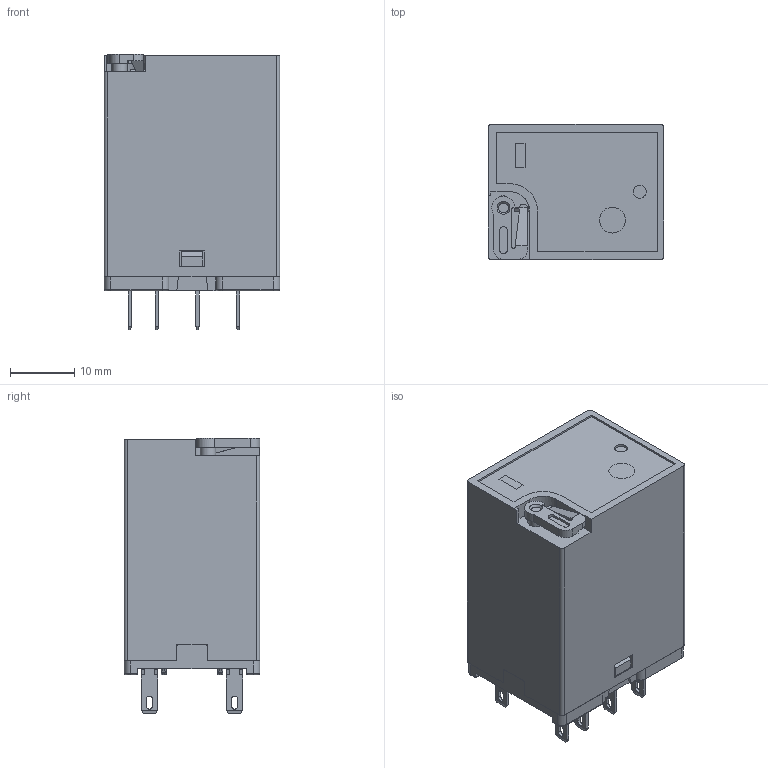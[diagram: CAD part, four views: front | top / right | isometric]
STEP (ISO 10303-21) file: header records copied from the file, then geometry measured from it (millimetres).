
FILE_DESCRIPTION(/* description */ (''),/* implementation_level */ '2;1');
FILE_NAME(/* name */ '18FH-2Z1.stp',/* time_stamp */ '2018-12-27T14:55:31+08:00',/* author */ (''),/* organization */ (''),/* preprocessor_version */ 'ST-DEVELOPER v15',/* originating_system */ 'SIEMENS PLM Software NX 8.5',/* authorisation */ '');
FILE_SCHEMA (('CONFIG_CONTROL_DESIGN'));
Length unit declared in the file: millimetre
Products named in the file (13): 77190533900_a; 66210828900_a; 77500391900_a; 80710158000_d; 83370005000_a; 86340695000_b; 89140050020_a; 61160153000_a; 66210877000_a; 66201145900_a; 61210583000_b; 56701789000_a; 45201755000_a
Assembly tree (18 placements, depth 5):
  45201755000_a
    56701789000_a
      61210583000_b
        80710158000_d
        77500391900_a  x4
        66201145900_a  x4
          77190533900_a
      89140050020_a
      66210877000_a
        66210828900_a
    61160153000_a
      86340695000_b
      83370005000_a
Bounding box: 27.2 x 21 x 42.7 mm (x, y, z)
Volume: 6647.4 mm3; surface area: 11437.1 mm2
Topology: 24 solids, 24 shells, 1490 faces, 3847 edges, 2439 vertices
Faces by surface type: plane 950, cylinder 412, torus 36, sphere 35, extrusion 32, bspline 19, cone 6
Full cylindrical faces by diameter (mm): 2 x1, 2.05 x4, 2.4 x1, 2.6 x1, 4 x1, 4.5 x1, 6 x1, 6.5 x1
Entity records: 40125 total; most frequent: CARTESIAN_POINT 12515, ORIENTED_EDGE 5488, DIRECTION 5229, EDGE_CURVE 2744, VECTOR 1913, LINE 1881, VERTEX_POINT 1740, AXIS2_PLACEMENT_3D 1658
